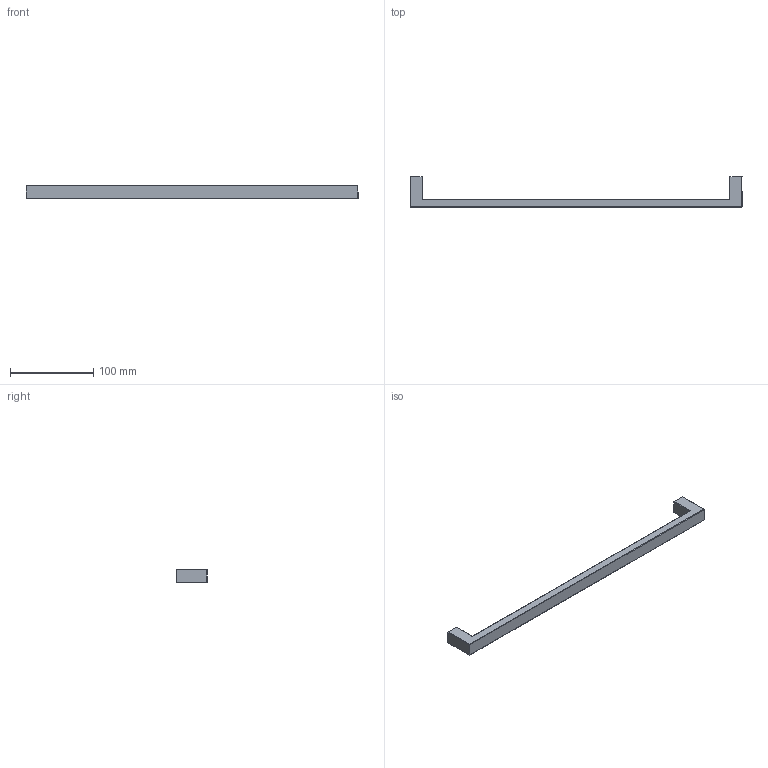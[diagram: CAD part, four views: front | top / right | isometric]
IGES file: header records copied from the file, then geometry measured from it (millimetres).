
Start section: Data from Parasolid IGES Translator 15.0.47, Copyright(c) 2006 Siemens P LM Software. All Rights Reserved.
Global section: file name: 9113251.igs; native system:  By UGS Corp.; preprocessor: XPlus GENERIC/IGES 3.0; author: Noname; organization: Noname; date: 20140122.181711; units: millimetre
Bounding box: 399 x 37 x 16.01 mm (x, y, z)
Surface area: 24219.1 mm2 (no closed solid volume)
Topology: 0 solids, 0 shells, 34 faces, 164 edges, 162 vertices
Faces by surface type: revolution 18, extrusion 16
